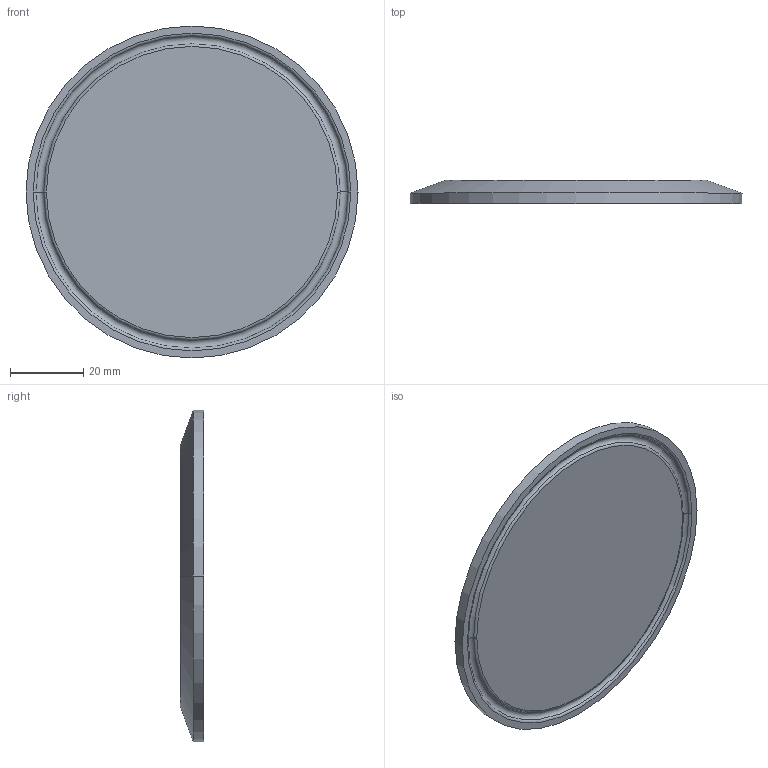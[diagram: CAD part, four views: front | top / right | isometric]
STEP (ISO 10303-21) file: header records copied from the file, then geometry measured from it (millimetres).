
FILE_DESCRIPTION (( 'STEP AP203' ), '1' );
FILE_NAME ('EG16A3.0.STEP', '2018-05-03T12:46:53', ( 'vneprd' ), ( 'Microsoft' ), 'SwSTEP 2.0', 'SolidWorks 2014', '' );
FILE_SCHEMA (( 'CONFIG_CONTROL_DESIGN' ));
Length unit declared in the file: inch
Products named in the file (1): EG16A3.0
Bounding box: 90.91 x 6.35 x 90.91 mm (x, y, z)
Volume: 36115.3 mm3; surface area: 14204.9 mm2
Topology: 1 solids, 1 shells, 13 faces, 24 edges, 14 vertices
Faces by surface type: torus 6, plane 3, cylinder 2, cone 2
Entity records: 409 total; most frequent: DIRECTION 72, CARTESIAN_POINT 52, ORIENTED_EDGE 48, AXIS2_PLACEMENT_3D 34, EDGE_CURVE 24, CIRCLE 20, EDGE_LOOP 14, VERTEX_POINT 14
